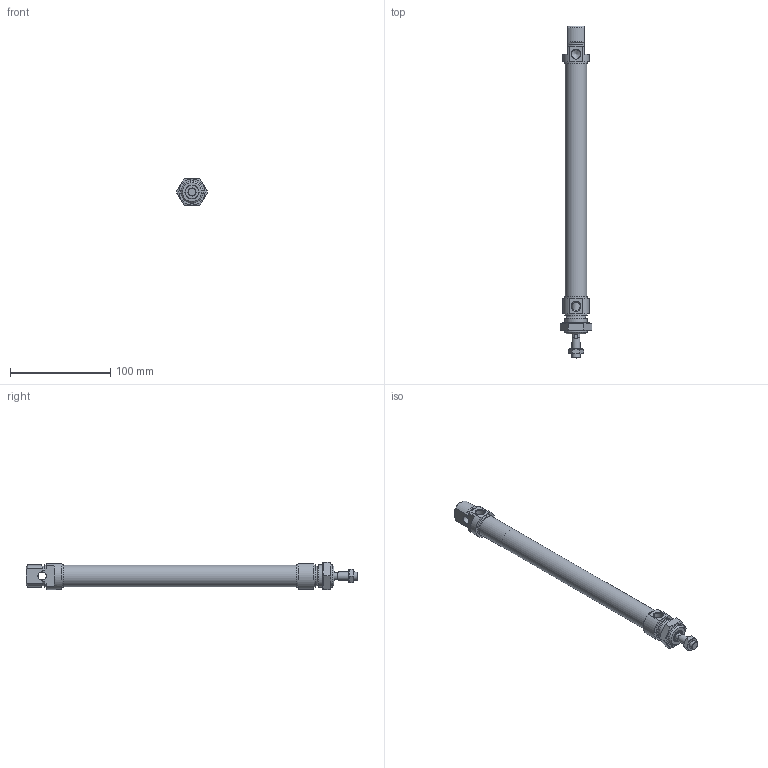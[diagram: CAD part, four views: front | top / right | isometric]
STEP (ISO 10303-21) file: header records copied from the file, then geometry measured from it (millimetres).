
FILE_DESCRIPTION(/* description */ ('Unknown'),/* implementation_level */ '2;1');
FILE_NAME(/* name */ 'RIM 20_200',/* time_stamp */ '2024-08-27T08:49:48+02:00',/* author */ ('Unknown'),/* organization */ ('Unknown'),/* preprocessor_version */ 'ST-DEVELOPER v16.7',/* originating_system */ 'Solid Edge',/* authorisation */ 'Unknown');
FILE_SCHEMA (('AUTOMOTIVE_DESIGN {1 0 10303 214 3 1 1}'));
Length unit declared in the file: millimetre
Products named in the file (7): RIM 20_200; Kit_2; Profilrohr; Kolbenstange; Kit_1; Mutter_1; Mutter_2
Assembly tree (6 placements, depth 2):
  RIM 20_200
    Kit_2
    Profilrohr
    Kolbenstange
    Kit_1
    Mutter_1
    Mutter_2
Bounding box: 31.18 x 331 x 27 mm (x, y, z)
Volume: 64103.7 mm3; surface area: 51254.4 mm2
Topology: 6 solids, 6 shells, 136 faces, 290 edges, 182 vertices
Faces by surface type: plane 55, cone 42, cylinder 32, torus 7
Full cylindrical faces by diameter (mm): 6.647 x1, 8 x3, 8.5 x1, 8.56 x2, 8.566 x2, 9.1 x1, 12 x1, 12.1 x1, 14.1 x1, 14.2 x1, 19.7 x1, 20 x2, 20.376 x1, 21.27 x1, 22 x2, 22.2 x2
Entity records: 4346 total; most frequent: CARTESIAN_POINT 664, DIRECTION 578, ORIENTED_EDGE 448, AXIS2_PLACEMENT_3D 259, EDGE_CURVE 224, FACE_BOUND 215, EDGE_LOOP 214, VERTEX_POINT 171
